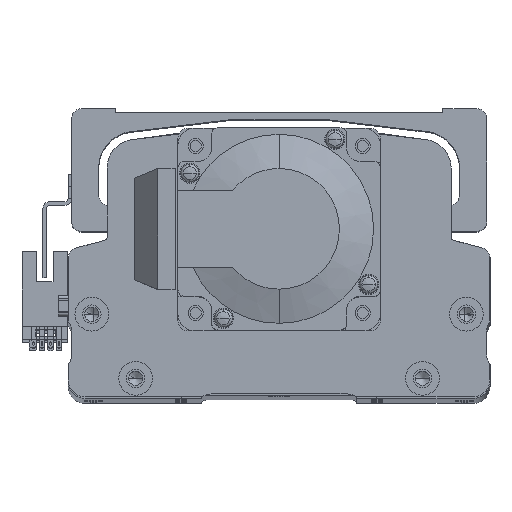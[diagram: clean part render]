
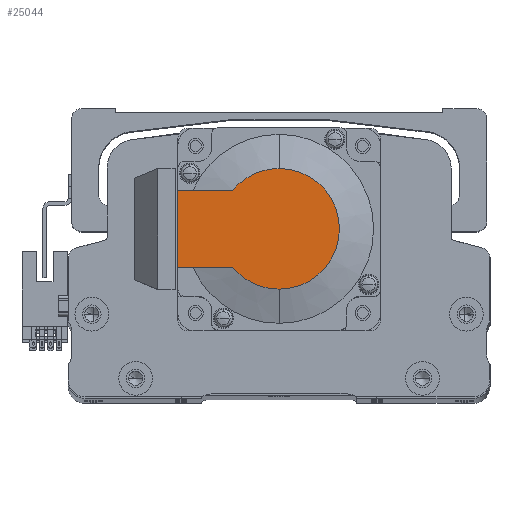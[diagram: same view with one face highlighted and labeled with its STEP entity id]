
A CAD part, top view. The second image highlights one B-rep face of the part: STEP entity #25044.
In plain terms, the highlighted planar face has unit normal (0, 0, 1) as drawn and (-1, 0, 0) by its records, which use the part's own axes.
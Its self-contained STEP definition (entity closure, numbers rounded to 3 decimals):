
#1374 = EDGE_CURVE ( 'NONE', #19205, #2884, #17408, .T. ) ;
#1739 = CARTESIAN_POINT ( 'NONE',  ( -118.5, 30., 25. ) ) ;
#1898 = EDGE_CURVE ( 'NONE', #32186, #13437, #33043, .T. ) ;
#2284 = DIRECTION ( 'NONE',  ( -1., 0., 0. ) ) ;
#2884 = VERTEX_POINT ( 'NONE', #56349 ) ;
#4046 = EDGE_CURVE ( 'NONE', #4849, #32186, #18295, .T. ) ;
#4849 = VERTEX_POINT ( 'NONE', #55541 ) ;
#5429 = ORIENTED_EDGE ( 'NONE', *, *, #53446, .F. ) ;
#7284 = PLANE ( 'NONE',  #36034 ) ;
#9869 = ORIENTED_EDGE ( 'NONE', *, *, #1374, .T. ) ;
#12487 = ORIENTED_EDGE ( 'NONE', *, *, #19268, .F. ) ;
#12658 = ORIENTED_EDGE ( 'NONE', *, *, #4046, .T. ) ;
#13437 = VERTEX_POINT ( 'NONE', #56122 ) ;
#16280 = DIRECTION ( 'NONE',  ( -1., 0., 0. ) ) ;
#16614 = CARTESIAN_POINT ( 'NONE',  ( -118.5, 30., 11.45 ) ) ;
#17408 = CIRCLE ( 'NONE', #39120, 17.881 ) ;
#18295 = LINE ( 'NONE', #41415, #41477 ) ;
#18316 = AXIS2_PLACEMENT_3D ( 'NONE', #42241, #42057, #39748 ) ;
#19126 = VECTOR ( 'NONE', #33902, 1000. ) ;
#19205 = VERTEX_POINT ( 'NONE', #32162 ) ;
#19268 = EDGE_CURVE ( 'NONE', #4849, #22362, #53958, .T. ) ;
#22362 = VERTEX_POINT ( 'NONE', #16614 ) ;
#22977 = CARTESIAN_POINT ( 'NONE',  ( -118.5, 13.735, -11.45 ) ) ;
#23494 = CIRCLE ( 'NONE', #45338, 17.881 ) ;
#25044 = ADVANCED_FACE ( 'NONE', ( #43874 ), #7284, .T. ) ;
#28452 = CARTESIAN_POINT ( 'NONE',  ( -118.5, 0., 0. ) ) ;
#28466 = ORIENTED_EDGE ( 'NONE', *, *, #40602, .T. ) ;
#29522 = VECTOR ( 'NONE', #32347, 1000. ) ;
#32162 = CARTESIAN_POINT ( 'NONE',  ( -118.5, 0., 17.881 ) ) ;
#32186 = VERTEX_POINT ( 'NONE', #22977 ) ;
#32347 = DIRECTION ( 'NONE',  ( 0., 0., 1. ) ) ;
#32866 = DIRECTION ( 'NONE',  ( 0., 0., -1. ) ) ;
#33043 = CIRCLE ( 'NONE', #18316, 17.881 ) ;
#33902 = DIRECTION ( 'NONE',  ( 0., -1., 0. ) ) ;
#34763 = DIRECTION ( 'NONE',  ( 0., 0., -1. ) ) ;
#34889 = DIRECTION ( 'NONE',  ( -1., 0., 0. ) ) ;
#34942 = CARTESIAN_POINT ( 'NONE',  ( -118.5, 0., 0. ) ) ;
#36034 = AXIS2_PLACEMENT_3D ( 'NONE', #42383, #16280, #46745 ) ;
#39120 = AXIS2_PLACEMENT_3D ( 'NONE', #34942, #34889, #34763 ) ;
#39748 = DIRECTION ( 'NONE',  ( 0., 0., -1. ) ) ;
#40602 = EDGE_CURVE ( 'NONE', #13437, #19205, #23494, .T. ) ;
#41415 = CARTESIAN_POINT ( 'NONE',  ( -118.5, -8.941, -11.45 ) ) ;
#41477 = VECTOR ( 'NONE', #45773, 1000. ) ;
#42057 = DIRECTION ( 'NONE',  ( -1., 0., 0. ) ) ;
#42241 = CARTESIAN_POINT ( 'NONE',  ( -118.5, 0., 0. ) ) ;
#42383 = CARTESIAN_POINT ( 'NONE',  ( -118.5, -8.941, 0. ) ) ;
#43874 = FACE_OUTER_BOUND ( 'NONE', #53035, .T. ) ;
#45338 = AXIS2_PLACEMENT_3D ( 'NONE', #28452, #2284, #32866 ) ;
#45773 = DIRECTION ( 'NONE',  ( 0., -1., 0. ) ) ;
#46745 = DIRECTION ( 'NONE',  ( 0., 0., 1. ) ) ;
#47001 = CARTESIAN_POINT ( 'NONE',  ( -118.5, 0., 11.45 ) ) ;
#47886 = ORIENTED_EDGE ( 'NONE', *, *, #1898, .T. ) ;
#52469 = LINE ( 'NONE', #47001, #19126 ) ;
#53035 = EDGE_LOOP ( 'NONE', ( #12658, #47886, #28466, #9869, #5429, #12487 ) ) ;
#53446 = EDGE_CURVE ( 'NONE', #22362, #2884, #52469, .T. ) ;
#53958 = LINE ( 'NONE', #1739, #29522 ) ;
#55541 = CARTESIAN_POINT ( 'NONE',  ( -118.5, 30., -11.45 ) ) ;
#56122 = CARTESIAN_POINT ( 'NONE',  ( -118.5, 0., -17.881 ) ) ;
#56349 = CARTESIAN_POINT ( 'NONE',  ( -118.5, 13.735, 11.45 ) ) ;
